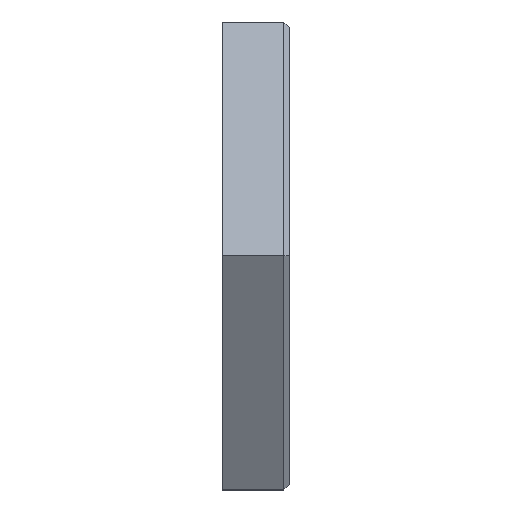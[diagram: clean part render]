
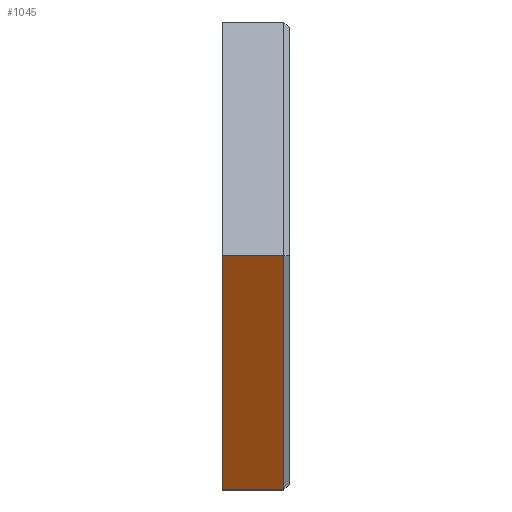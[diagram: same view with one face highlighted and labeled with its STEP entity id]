
A CAD part, top view. The second image highlights one B-rep face of the part: STEP entity #1045.
In plain terms, the highlighted planar face has unit normal (0, -0.5, 0.866).
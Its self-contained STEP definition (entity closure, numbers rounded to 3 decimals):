
#43=PLANE('',#1125);
#92=FACE_OUTER_BOUND('',#150,.T.);
#150=EDGE_LOOP('',(#796,#797,#798,#799));
#264=LINE('',#1750,#375);
#274=LINE('',#1769,#385);
#275=LINE('',#1771,#386);
#276=LINE('',#1772,#387);
#375=VECTOR('',#1253,10.);
#385=VECTOR('',#1271,10.);
#386=VECTOR('',#1272,10.);
#387=VECTOR('',#1273,10.);
#496=VERTEX_POINT('',#1743);
#498=VERTEX_POINT('',#1749);
#503=VERTEX_POINT('',#1768);
#504=VERTEX_POINT('',#1770);
#607=EDGE_CURVE('',#496,#498,#264,.T.);
#617=EDGE_CURVE('',#496,#503,#274,.T.);
#618=EDGE_CURVE('',#504,#503,#275,.T.);
#619=EDGE_CURVE('',#498,#504,#276,.T.);
#796=ORIENTED_EDGE('',*,*,#607,.F.);
#797=ORIENTED_EDGE('',*,*,#617,.T.);
#798=ORIENTED_EDGE('',*,*,#618,.F.);
#799=ORIENTED_EDGE('',*,*,#619,.F.);
#1045=ADVANCED_FACE('',(#92),#43,.T.);
#1125=AXIS2_PLACEMENT_3D('',#1767,#1269,#1270);
#1253=DIRECTION('',(0.,-0.866,-0.5));
#1269=DIRECTION('center_axis',(0.,-0.5,0.866));
#1270=DIRECTION('ref_axis',(0.,0.866,0.5));
#1271=DIRECTION('',(-1.,0.,0.));
#1272=DIRECTION('',(0.,0.866,0.5));
#1273=DIRECTION('',(-1.,0.,0.));
#1743=CARTESIAN_POINT('',(-0.5,0.,24.249));
#1749=CARTESIAN_POINT('',(-0.5,-21.,12.124));
#1750=CARTESIAN_POINT('',(-0.5,-15.75,15.155));
#1767=CARTESIAN_POINT('Origin',(0.,-21.,12.124));
#1768=CARTESIAN_POINT('',(-6.,0.,24.249));
#1769=CARTESIAN_POINT('',(0.,0.,24.249));
#1770=CARTESIAN_POINT('',(-6.,-21.,12.124));
#1771=CARTESIAN_POINT('',(-6.,0.,24.249));
#1772=CARTESIAN_POINT('',(0.,-21.,12.124));
